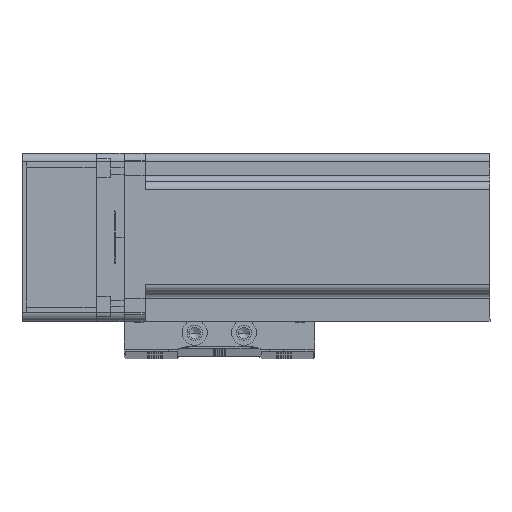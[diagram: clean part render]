
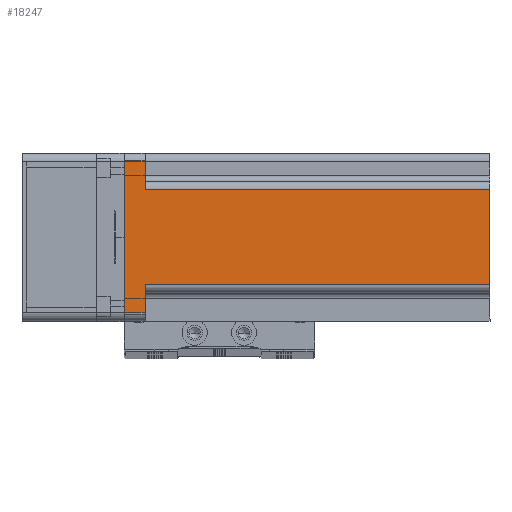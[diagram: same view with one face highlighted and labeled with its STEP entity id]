
A CAD part, top view. The second image highlights one B-rep face of the part: STEP entity #18247.
In plain terms, the highlighted planar face has unit normal (0, 0, 1) as drawn and (0, 1, 0) by its records, which use the part's own axes.
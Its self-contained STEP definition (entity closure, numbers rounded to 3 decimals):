
#562 = LINE ( 'NONE', #47975, #39495 ) ;
#805 = DIRECTION ( 'NONE',  ( 0., -1., 0. ) ) ;
#827 = VECTOR ( 'NONE', #42097, 1000. ) ;
#1230 = LINE ( 'NONE', #22094, #53686 ) ;
#3173 = CARTESIAN_POINT ( 'NONE',  ( 17., 30., 130.7 ) ) ;
#3395 = DIRECTION ( 'NONE',  ( 0., 0., -1. ) ) ;
#6554 = CARTESIAN_POINT ( 'NONE',  ( 27., 30., 130.7 ) ) ;
#7044 = DIRECTION ( 'NONE',  ( -1., 0., 0. ) ) ;
#7887 = FACE_OUTER_BOUND ( 'NONE', #11355, .T. ) ;
#8831 = LINE ( 'NONE', #64915, #35861 ) ;
#8970 = CARTESIAN_POINT ( 'NONE',  ( -20., 30., 7.5 ) ) ;
#9692 = VECTOR ( 'NONE', #50657, 1000. ) ;
#9737 = VERTEX_POINT ( 'NONE', #28082 ) ;
#10795 = ORIENTED_EDGE ( 'NONE', *, *, #38898, .T. ) ;
#11316 = ORIENTED_EDGE ( 'NONE', *, *, #63817, .T. ) ;
#11355 = EDGE_LOOP ( 'NONE', ( #53764, #11316, #53336, #65395, #59311, #43410, #34259, #10795 ) ) ;
#15269 = CARTESIAN_POINT ( 'NONE',  ( 30., 30., 130.7 ) ) ;
#15818 = CARTESIAN_POINT ( 'NONE',  ( -17., 30., 130.7 ) ) ;
#16576 = DIRECTION ( 'NONE',  ( 0., 0., 1. ) ) ;
#16669 = VERTEX_POINT ( 'NONE', #40621 ) ;
#17376 = VERTEX_POINT ( 'NONE', #62241 ) ;
#18247 = ADVANCED_FACE ( 'NONE', ( #7887 ), #30994, .F. ) ;
#22094 = CARTESIAN_POINT ( 'NONE',  ( 30., 30., 0. ) ) ;
#22763 = VERTEX_POINT ( 'NONE', #23296 ) ;
#23296 = CARTESIAN_POINT ( 'NONE',  ( 27., 30., 0. ) ) ;
#24267 = DIRECTION ( 'NONE',  ( 1., 0., 0. ) ) ;
#25110 = AXIS2_PLACEMENT_3D ( 'NONE', #31213, #805, #36332 ) ;
#25515 = CARTESIAN_POINT ( 'NONE',  ( -27., 30., 7.5 ) ) ;
#26454 = LINE ( 'NONE', #8970, #65326 ) ;
#27241 = CARTESIAN_POINT ( 'NONE',  ( 27., 30., 7.5 ) ) ;
#27713 = DIRECTION ( 'NONE',  ( -1., 0., 0. ) ) ;
#28082 = CARTESIAN_POINT ( 'NONE',  ( -17., 30., 7.5 ) ) ;
#29834 = EDGE_CURVE ( 'NONE', #17376, #44435, #50246, .T. ) ;
#30994 = PLANE ( 'NONE',  #25110 ) ;
#31213 = CARTESIAN_POINT ( 'NONE',  ( 30., 30., 130.7 ) ) ;
#33368 = LINE ( 'NONE', #41906, #45335 ) ;
#33466 = CARTESIAN_POINT ( 'NONE',  ( -27., 30., 0. ) ) ;
#33521 = EDGE_CURVE ( 'NONE', #54373, #16669, #562, .T. ) ;
#34259 = ORIENTED_EDGE ( 'NONE', *, *, #50485, .T. ) ;
#34556 = DIRECTION ( 'NONE',  ( 0., 0., 1. ) ) ;
#35861 = VECTOR ( 'NONE', #34556, 1000. ) ;
#36332 = DIRECTION ( 'NONE',  ( 1., 0., 0. ) ) ;
#38449 = VERTEX_POINT ( 'NONE', #25515 ) ;
#38898 = EDGE_CURVE ( 'NONE', #65648, #38449, #8831, .T. ) ;
#39187 = EDGE_CURVE ( 'NONE', #54373, #22763, #41320, .T. ) ;
#39495 = VECTOR ( 'NONE', #27713, 1000. ) ;
#40621 = CARTESIAN_POINT ( 'NONE',  ( 17., 30., 7.5 ) ) ;
#41320 = LINE ( 'NONE', #6554, #827 ) ;
#41906 = CARTESIAN_POINT ( 'NONE',  ( -17., 30., 130.7 ) ) ;
#42097 = DIRECTION ( 'NONE',  ( 0., 0., -1. ) ) ;
#43410 = ORIENTED_EDGE ( 'NONE', *, *, #39187, .T. ) ;
#44330 = EDGE_CURVE ( 'NONE', #38449, #9737, #26454, .T. ) ;
#44435 = VERTEX_POINT ( 'NONE', #15818 ) ;
#45335 = VECTOR ( 'NONE', #16576, 1000. ) ;
#46572 = EDGE_CURVE ( 'NONE', #17376, #16669, #61150, .T. ) ;
#47640 = VECTOR ( 'NONE', #3395, 1000. ) ;
#47975 = CARTESIAN_POINT ( 'NONE',  ( 20., 30., 7.5 ) ) ;
#50246 = LINE ( 'NONE', #15269, #9692 ) ;
#50485 = EDGE_CURVE ( 'NONE', #22763, #65648, #1230, .T. ) ;
#50657 = DIRECTION ( 'NONE',  ( -1., 0., 0. ) ) ;
#53336 = ORIENTED_EDGE ( 'NONE', *, *, #29834, .F. ) ;
#53686 = VECTOR ( 'NONE', #7044, 1000. ) ;
#53764 = ORIENTED_EDGE ( 'NONE', *, *, #44330, .T. ) ;
#54373 = VERTEX_POINT ( 'NONE', #27241 ) ;
#59311 = ORIENTED_EDGE ( 'NONE', *, *, #33521, .F. ) ;
#61150 = LINE ( 'NONE', #3173, #47640 ) ;
#62241 = CARTESIAN_POINT ( 'NONE',  ( 17., 30., 130.7 ) ) ;
#63817 = EDGE_CURVE ( 'NONE', #9737, #44435, #33368, .T. ) ;
#64915 = CARTESIAN_POINT ( 'NONE',  ( -27., 30., 130.7 ) ) ;
#65326 = VECTOR ( 'NONE', #24267, 1000. ) ;
#65395 = ORIENTED_EDGE ( 'NONE', *, *, #46572, .T. ) ;
#65648 = VERTEX_POINT ( 'NONE', #33466 ) ;
